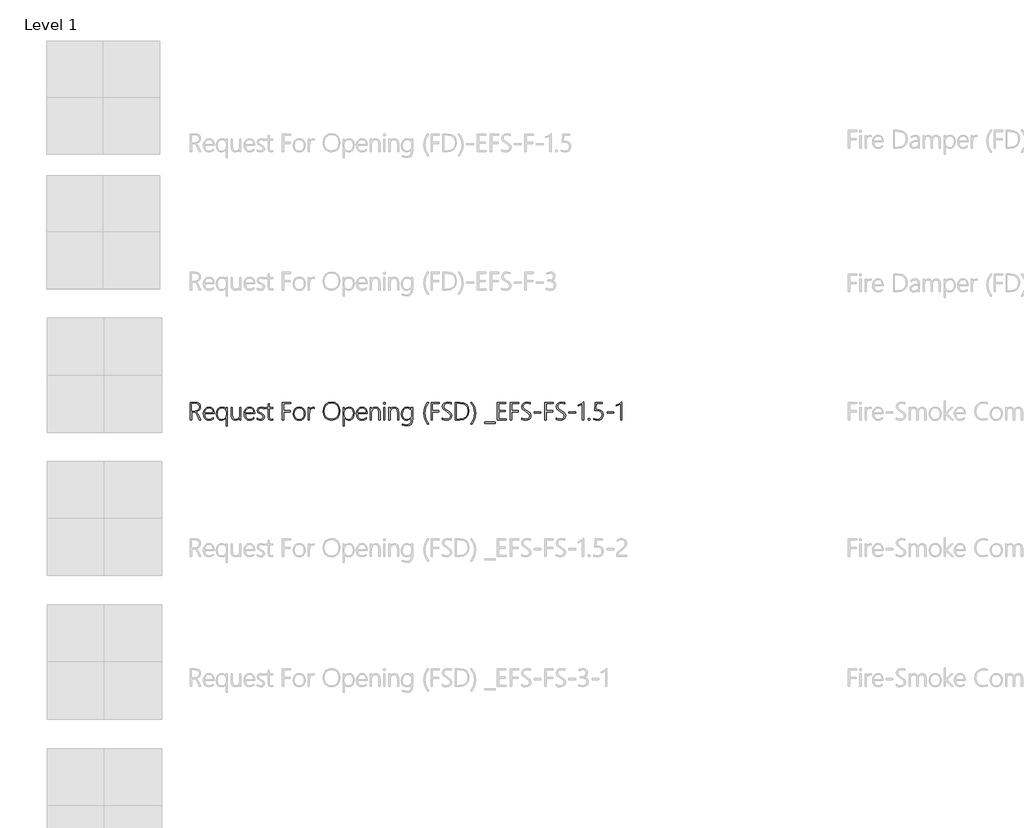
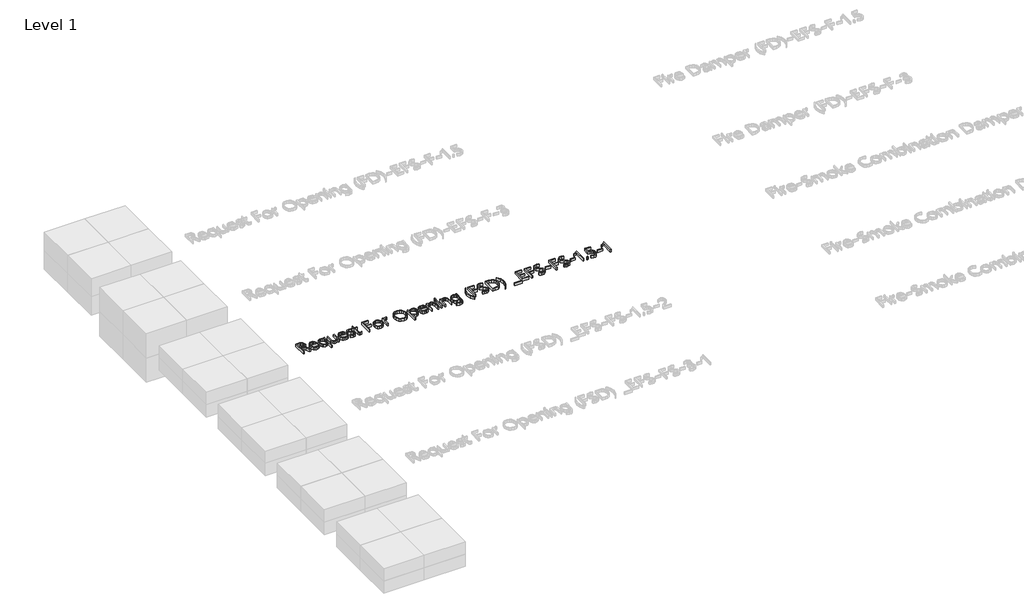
# One storey, part 7 of 13: 1 proxy.
"""IFC4 building model written with IfcOpenShell, lengths in millimetres."""

from ifc_helpers import new_model, si_unit, origin, origin_with_axes, place, context, project, spatial, polyline, outline, extrude, element, save

model = new_model("IFC4")

# Units and contexts
model_context = context("Model", 3, world=origin())
ifc_project = project(units=[si_unit("LENGTHUNIT", "METRE", prefix="MILLI")], contexts=[model_context])

# Site, building, storey
site = spatial("IfcSite", under=ifc_project)
building = spatial("IfcBuilding", under=site)
storey = spatial("IfcBuildingStorey", under=building, Name="Level 1", Elevation=0.0)

# Proxy
placement = place(None, origin())
element("IfcBuildingElementProxy", 1, Name="24\" Arial", ObjectType="24\" Arial", at=placement, inside=storey, context=model_context, shape_type="SweptSolid", body=[
    extrude(outline(polyline([(-15088.6743908, 6224.970856), (-15102.0044774, 6254.2494391), (-15110.2316402, 6266.4339713), (-15120.5713837, 6269.543333), (-15132.9790759, 6269.543333), (-15132.9790759, 6224.970856), (-15139.8821565, 6224.970856), (-15139.8821565, 6324.9762601), (-15112.121061, 6324.9762601), (-15100.2973039, 6323.1872613), (-15091.307678, 6317.8202649), (-15085.6282578, 6309.5298735), (-15083.7351177, 6298.9706894), (-15085.2860792, 6289.0363531), (-15089.9389638, 6280.8947349), (-15097.3813475, 6274.9400841), (-15107.3008065, 6271.5666498), (-15095.7262447, 6256.8380943), (-15080.8786706, 6224.970856), (-15088.6743908, 6224.970856)]), holes=[polyline([(-15132.9790759, 6318.638518), (-15132.9790759, 6275.8215658), (-15115.7511292, 6275.8215658), (-15105.4783337, 6277.3204567), (-15097.5710334, 6281.8171293), (-15092.527619, 6288.9247731), (-15090.8464808, 6298.2565776), (-15092.3639684, 6306.7738483), (-15096.916431, 6313.2231703), (-15104.2955861, 6317.2846811), (-15114.293151, 6318.638518), (-15132.9790759, 6318.638518)])]), origin_with_axes(), (0.0, 0.0, 1.0), 20.0),
    extrude(outline(polyline([(-15059.7528637, 6260.4086532), (-15058.0531289, 6247.2868492), (-15052.9539245, 6237.3785482), (-15044.8941316, 6231.1523862), (-15034.3126315, 6229.0769988), (-15022.4405231, 6231.2937208), (-15010.8659614, 6237.9438867), (-15010.8659614, 6231.1003155), (-15022.6041738, 6225.1865773), (-15035.6218364, 6223.2153313), (-15048.1039153, 6225.6924065), (-15057.9378296, 6233.1236322), (-15064.3202036, 6245.0701272), (-15066.4476617, 6261.0930103), (-15064.223501, 6275.4868259), (-15057.551019, 6287.4258822), (-15047.3228555, 6295.4596398), (-15034.4316501, 6298.1375589), (-15022.6748411, 6295.798099), (-15014.0050777, 6288.7797192), (-15008.6603974, 6277.7221445), (-15006.8788373, 6263.2651003), (-15006.8788373, 6260.4086532), (-15059.7528637, 6260.4086532)]), holes=[polyline([(-15013.5736352, 6266.2703207), (-15015.284528, 6277.2200347), (-15019.5245667, 6285.4323202), (-15026.07803, 6290.5649986), (-15034.7291967, 6292.2758914), (-15043.8973506, 6290.5910339), (-15051.347173, 6285.5364615), (-15056.676976, 6277.3502113), (-15059.4850718, 6266.2703207), (-15013.5736352, 6266.2703207)])]), origin_with_axes(), (0.0, 0.0, 1.0), 20.0),
    extrude(outline(polyline([(-14938.2348423, 6192.1217141), (-14938.2348423, 6238.09266), (-14948.946519, 6226.9346634), (-14964.3891863, 6223.2153313), (-14976.4695772, 6225.6738098), (-14985.9315583, 6233.0492456), (-14992.0461405, 6244.597772), (-14994.0843345, 6259.5755228), (-14991.7671906, 6275.4979839), (-14984.8157587, 6287.7383061), (-14974.2863292, 6295.5377457), (-14961.2351926, 6298.1375589), (-14947.5629274, 6294.8050373), (-14938.5026342, 6284.8074724), (-14938.2348423, 6296.3820342), (-14931.8078363, 6296.3820342), (-14931.8078363, 6192.1217141), (-14938.2348423, 6192.1217141)]), holes=[polyline([(-14938.2348423, 6267.7878083), (-14939.7858038, 6277.5250199), (-14944.4386884, 6285.3728109), (-14951.8438788, 6290.5501213), (-14961.6517578, 6292.2758914), (-14971.8055347, 6290.1409947), (-14980.0698908, 6283.7363047), (-14985.5596251, 6273.4932638), (-14987.3895366, 6259.8433147), (-14985.7604691, 6247.015338), (-14980.8732666, 6237.2744069), (-14973.3899702, 6231.1263508), (-14963.9726211, 6229.0769988), (-14952.9448011, 6230.9961742), (-14944.8552536, 6236.7537004), (-14939.8899451, 6245.2858485), (-14938.2348423, 6255.5288893), (-14938.2348423, 6267.7878083)])]), origin_with_axes(), (0.0, 0.0, 1.0), 20.0),
    extrude(outline(polyline([(-14861.7951271, 6224.970856), (-14861.7951271, 6237.9438867), (-14871.5620934, 6226.8974701), (-14885.0930239, 6223.2153313), (-14896.1710549, 6225.2088933), (-14904.0839341, 6231.1895795), (-14908.8316616, 6241.1573898), (-14910.4142375, 6255.1123241), (-14910.4142375, 6296.3820342), (-14903.9277221, 6296.3820342), (-14903.9277221, 6256.689321), (-14902.7338165, 6244.1812068), (-14899.1520996, 6235.6379008), (-14893.0040435, 6230.7172243), (-14884.1111202, 6229.0769988), (-14875.0917397, 6230.9069102), (-14867.9692185, 6236.3966445), (-14863.3386499, 6244.9436699), (-14861.7951271, 6255.9454546), (-14861.7951271, 6296.3820342), (-14855.3978757, 6296.3820342), (-14855.3978757, 6224.970856), (-14861.7951271, 6224.970856)])), origin_with_axes(), (0.0, 0.0, 1.0), 20.0),
    extrude(outline(polyline([(-14831.2370938, 6260.4086532), (-14829.537359, 6247.2868492), (-14824.4381545, 6237.3785482), (-14816.3783617, 6231.1523862), (-14805.7968616, 6229.0769988), (-14793.9247532, 6231.2937208), (-14782.3501914, 6237.9438867), (-14782.3501914, 6231.1003155), (-14794.0884038, 6225.1865773), (-14807.1060665, 6223.2153313), (-14819.5881453, 6225.6924065), (-14829.4220597, 6233.1236322), (-14835.8044337, 6245.0701272), (-14837.9318917, 6261.0930103), (-14835.7077311, 6275.4868259), (-14829.0352491, 6287.4258822), (-14818.8070856, 6295.4596398), (-14805.9158802, 6298.1375589), (-14794.1590711, 6295.798099), (-14785.4893078, 6288.7797192), (-14780.1446274, 6277.7221445), (-14778.3630673, 6263.2651003), (-14778.3630673, 6260.4086532), (-14831.2370938, 6260.4086532)]), holes=[polyline([(-14785.0578653, 6266.2703207), (-14786.7687581, 6277.2200347), (-14791.0087968, 6285.4323202), (-14797.5622601, 6290.5649986), (-14806.2134268, 6292.2758914), (-14815.3815806, 6290.5910339), (-14822.831403, 6285.5364615), (-14828.161206, 6277.3502113), (-14830.9693018, 6266.2703207), (-14785.0578653, 6266.2703207)])]), origin_with_axes(), (0.0, 0.0, 1.0), 20.0),
    extrude(outline(polyline([(-14764.1105863, 6228.0950951), (-14764.1105863, 6235.8610607), (-14755.318085, 6230.8920329), (-14746.4065651, 6229.0769988), (-14733.798029, 6232.5136617), (-14729.5951836, 6242.8236506), (-14733.2847611, 6250.9020401), (-14745.2758881, 6257.819998), (-14759.6771424, 6267.0588191), (-14763.8130398, 6278.6780129), (-14762.1504983, 6286.5592778), (-14757.1628738, 6292.7668433), (-14740.7531802, 6298.1375589), (-14724.9832117, 6294.3587174), (-14724.9832117, 6287.098581), (-14741.4375373, 6292.2758914), (-14752.8038165, 6288.6160685), (-14757.1182418, 6279.0945781), (-14754.410568, 6270.8227833), (-14742.419441, 6263.5328922), (-14727.080915, 6254.2196844), (-14722.9003856, 6242.8236506), (-14724.4959792, 6235.0539656), (-14729.2827597, 6228.7645749), (-14736.8739167, 6224.6026422), (-14746.8826396, 6223.2153313), (-14764.1105863, 6228.0950951)])), origin_with_axes(), (0.0, 0.0, 1.0), 20.0),
    extrude(outline(polyline([(-14676.9294397, 6225.9527597), (-14686.3616662, 6223.5723871), (-14698.2337745, 6228.318255), (-14702.191144, 6242.5558587), (-14702.191144, 6290.5203666), (-14715.0154014, 6290.5203666), (-14715.0154014, 6296.3820342), (-14702.191144, 6296.3820342), (-14702.191144, 6314.9191858), (-14698.977641, 6316.0498628), (-14695.764138, 6317.0912758), (-14695.764138, 6296.3820342), (-14676.9294397, 6296.3820342), (-14676.9294397, 6290.5203666), (-14695.764138, 6290.5203666), (-14695.764138, 6243.3889891), (-14693.4283973, 6232.6773124), (-14685.5285358, 6229.3745454), (-14676.9294397, 6231.9334459), (-14676.9294397, 6225.9527597)])), origin_with_axes(), (0.0, 0.0, 1.0), 20.0),
    extrude(outline(polyline([(-14615.0099974, 6318.638518), (-14615.0099974, 6277.8448825), (-14578.0547127, 6277.8448825), (-14578.0547127, 6271.5666498), (-14615.0099974, 6271.5666498), (-14615.0099974, 6224.970856), (-14621.9130779, 6224.970856), (-14621.9130779, 6324.9762601), (-14575.1685109, 6324.9762601), (-14575.1685109, 6318.638518), (-14615.0099974, 6318.638518)])), origin_with_axes(), (0.0, 0.0, 1.0), 20.0),
    extrude(outline(polyline([(-14527.9776241, 6223.2153313), (-14541.9697518, 6225.7891091), (-14552.7037445, 6233.5104428), (-14559.5324384, 6245.3453578), (-14561.8086697, 6260.2598799), (-14559.4282971, 6276.115393), (-14552.2871793, 6288.095362), (-14541.2630787, 6295.6270097), (-14527.2337576, 6298.1375589), (-14513.5503345, 6295.641887), (-14503.087853, 6288.1548713), (-14496.4488451, 6276.2567277), (-14494.2358424, 6260.5276718), (-14496.4934771, 6245.4494991), (-14503.266381, 6233.5401974), (-14513.959461, 6225.7965478), (-14527.9776241, 6223.2153313)]), holes=[polyline([(-14527.5015495, 6292.2758914), (-14538.8380741, 6290.1484334), (-14547.615698, 6283.7660594), (-14553.2393283, 6273.5974051), (-14555.1138717, 6260.1111066), (-14553.2839603, 6247.4728158), (-14547.794226, 6237.5868308), (-14539.128182, 6231.2044568), (-14527.7693415, 6229.0769988), (-14516.3621496, 6231.1709828), (-14507.9081076, 6237.4529349), (-14502.6750072, 6247.4467805), (-14500.9306404, 6260.6764451), (-14502.6638492, 6274.166463), (-14507.8634756, 6284.1082379), (-14516.2394117, 6290.233978), (-14527.5015495, 6292.2758914)])]), origin_with_axes(), (0.0, 0.0, 1.0), 20.0),
    extrude(outline(polyline([(-14442.9983221, 6289.6872362), (-14450.5262505, 6291.9783448), (-14458.2736194, 6289.7988162), (-14464.6745901, 6283.2602302), (-14468.9704188, 6272.7122041), (-14470.4023617, 6258.5043551), (-14470.4023617, 6224.970856), (-14476.6805945, 6224.970856), (-14476.6805945, 6296.3820342), (-14470.4023617, 6296.3820342), (-14470.4023617, 6280.5525563), (-14462.3686042, 6293.2429178), (-14450.1096853, 6297.7805031), (-14442.9983221, 6296.5308074), (-14442.9983221, 6289.6872362)])), origin_with_axes(), (0.0, 0.0, 1.0), 20.0),
    extrude(outline(polyline([(-14346.5337224, 6223.2153313), (-14365.5729839, 6226.7375388), (-14380.320136, 6237.3041616), (-14389.7709591, 6253.5018533), (-14392.9212335, 6273.9172677), (-14389.6854145, 6295.4596398), (-14379.9779574, 6312.2412666), (-14364.6766248, 6323.0422073), (-14344.6591789, 6326.6425209), (-14326.3563452, 6323.1835419), (-14311.9141783, 6312.8066051), (-14302.5303032, 6296.8134767), (-14299.4023448, 6276.5059229), (-14302.6084092, 6254.3349837), (-14312.2266022, 6237.4529349), (-14327.2155109, 6226.7747322), (-14346.5337224, 6223.2153313)]), holes=[polyline([(-14345.8196106, 6320.3642881), (-14361.712317, 6317.2102944), (-14374.5179778, 6307.7483133), (-14382.9645812, 6293.1759698), (-14385.7801157, 6274.6908888), (-14383.1133545, 6256.1462985), (-14375.1130709, 6241.8119922), (-14362.6719047, 6232.640119), (-14346.6824956, 6229.582828), (-14330.0570807, 6232.606645), (-14317.3146486, 6241.6780963), (-14309.2139431, 6256.1574565), (-14306.513708, 6275.4050006), (-14309.1544338, 6294.2657341), (-14317.0766114, 6308.4773024), (-14329.5438129, 6317.3925417), (-14345.8196106, 6320.3642881)])]), origin_with_axes(), (0.0, 0.0, 1.0), 20.0),
    extrude(outline(polyline([(-14273.843094, 6237.6760948), (-14274.1108859, 6192.1217141), (-14280.5378919, 6192.1217141), (-14280.5378919, 6296.3820342), (-14274.1108859, 6296.3820342), (-14274.1108859, 6281.6534787), (-14262.848748, 6293.8380109), (-14247.1234115, 6298.1375589), (-14235.0169852, 6295.7906603), (-14225.8934633, 6288.7499645), (-14220.1694111, 6277.6849512), (-14218.2613937, 6263.2651003), (-14220.448361, 6247.0450926), (-14227.009263, 6234.2691865), (-14237.1630399, 6225.9787951), (-14250.1286319, 6223.2153313), (-14264.0761276, 6226.8305221), (-14273.843094, 6237.6760948)]), holes=[polyline([(-14274.1108859, 6264.247004), (-14274.1108859, 6255.2313428), (-14272.4185897, 6245.2486552), (-14267.3417013, 6236.7834551), (-14259.512507, 6231.0036129), (-14249.5632934, 6229.0769988), (-14239.6438345, 6231.4238974), (-14231.7848855, 6238.4645932), (-14226.6633651, 6249.3213239), (-14224.9561916, 6263.116327), (-14226.5257498, 6275.12977), (-14231.2344244, 6284.3909072), (-14238.5540701, 6290.3046454), (-14247.9565419, 6292.2758914), (-14259.0364325, 6290.1819074), (-14267.282192, 6283.8999553), (-14272.4037124, 6274.7987494), (-14274.1108859, 6264.247004)])]), origin_with_axes(), (0.0, 0.0, 1.0), 20.0),
    extrude(outline(polyline([(-14199.0101303, 6260.4086532), (-14197.3103954, 6247.2868492), (-14192.211191, 6237.3785482), (-14184.1513981, 6231.1523862), (-14173.5698981, 6229.0769988), (-14161.6977897, 6231.2937208), (-14150.1232279, 6237.9438867), (-14150.1232279, 6231.1003155), (-14161.8614403, 6225.1865773), (-14174.879103, 6223.2153313), (-14187.3611818, 6225.6924065), (-14197.1950961, 6233.1236322), (-14203.5774702, 6245.0701272), (-14205.7049282, 6261.0930103), (-14203.4807675, 6275.4868259), (-14196.8082856, 6287.4258822), (-14186.5801221, 6295.4596398), (-14173.6889167, 6298.1375589), (-14161.9321076, 6295.798099), (-14153.2623443, 6288.7797192), (-14147.9176639, 6277.7221445), (-14146.1361038, 6263.2651003), (-14146.1361038, 6260.4086532), (-14199.0101303, 6260.4086532)]), holes=[polyline([(-14152.8309017, 6266.2703207), (-14154.5417946, 6277.2200347), (-14158.7818333, 6285.4323202), (-14165.3352966, 6290.5649986), (-14173.9864633, 6292.2758914), (-14183.1546171, 6290.5910339), (-14190.6044395, 6285.5364615), (-14195.9342425, 6277.3502113), (-14198.7423383, 6266.2703207), (-14152.8309017, 6266.2703207)])]), origin_with_axes(), (0.0, 0.0, 1.0), 20.0),
    extrude(outline(polyline([(-14079.6344442, 6224.970856), (-14079.6344442, 6266.5381126), (-14084.2761708, 6285.8414467), (-14090.078329, 6290.6672802), (-14098.2013505, 6292.2758914), (-14107.6001029, 6290.3827513), (-14115.146628, 6284.7033311), (-14120.1119364, 6276.2344117), (-14121.7670393, 6265.9727741), (-14121.7670393, 6224.970856), (-14128.1940453, 6224.970856), (-14128.1940453, 6296.3820342), (-14121.7670393, 6296.3820342), (-14121.7670393, 6283.4090035), (-14111.4793664, 6294.4554201), (-14097.0706735, 6298.1375589), (-14086.8573873, 6296.2109449), (-14079.3666523, 6290.4311026), (-14074.7695577, 6281.0732628), (-14073.2371928, 6268.4126561), (-14073.2371928, 6224.970856), (-14079.6344442, 6224.970856)])), origin_with_axes(), (0.0, 0.0, 1.0), 20.0),
    extrude(outline(polyline([(-14048.8681283, 6314.383602), (-14052.5577058, 6315.9159668), (-14054.1644573, 6319.8287043), (-14052.5279512, 6323.5480365), (-14048.8681283, 6324.9762601), (-14045.0595321, 6323.5777912), (-14043.4230259, 6319.8287043), (-14045.0297775, 6315.9903535), (-14048.8681283, 6314.383602)])), origin_with_axes(), (0.0, 0.0, 1.0), 20.0),
    extrude(outline(polyline([(-14052.022122, 6224.970856), (-14052.022122, 6296.3820342), (-14045.595116, 6296.3820342), (-14045.595116, 6224.970856), (-14052.022122, 6224.970856)])), origin_with_axes(), (0.0, 0.0, 1.0), 20.0),
    extrude(outline(polyline([(-13974.8980496, 6224.970856), (-13974.8980496, 6266.5381126), (-13979.5397762, 6285.8414467), (-13985.3419344, 6290.6672802), (-13993.4649559, 6292.2758914), (-14002.8637084, 6290.3827513), (-14010.4102334, 6284.7033311), (-14015.3755419, 6276.2344117), (-14017.0306447, 6265.9727741), (-14017.0306447, 6224.970856), (-14023.4576507, 6224.970856), (-14023.4576507, 6296.3820342), (-14017.0306447, 6296.3820342), (-14017.0306447, 6283.4090035), (-14006.7429719, 6294.4554201), (-13992.3342789, 6298.1375589), (-13982.1209927, 6296.2109449), (-13974.6302577, 6290.4311026), (-13970.0331631, 6281.0732628), (-13968.5007983, 6268.4126561), (-13968.5007983, 6224.970856), (-13974.8980496, 6224.970856)])), origin_with_axes(), (0.0, 0.0, 1.0), 20.0),
    extrude(outline(polyline([(-13890.1567849, 6230.2671851), (-13892.3549103, 6212.8235171), (-13898.9492862, 6200.7803195), (-13910.1779501, 6193.7730976), (-13926.2789392, 6191.437357), (-13947.5535193, 6196.8527047), (-13947.5535193, 6203.5475026), (-13926.1301659, 6197.2990245), (-13913.2036269, 6199.2516739), (-13903.9703847, 6205.1096221), (-13898.4304394, 6214.8728691), (-13896.583791, 6228.541415), (-13896.583791, 6237.7951134), (-13907.5111889, 6226.8602768), (-13922.5893617, 6223.2153313), (-13934.5581727, 6225.6068619), (-13944.1019791, 6232.7814537), (-13950.3504571, 6244.2258388), (-13952.4332832, 6259.4267495), (-13950.1830872, 6274.9400841), (-13943.4324993, 6287.3217409), (-13933.0072111, 6295.4336044), (-13919.7329145, 6298.1375589), (-13906.1275974, 6294.8719853), (-13896.8515829, 6285.0752643), (-13896.583791, 6296.3820342), (-13890.1567849, 6296.3820342), (-13890.1567849, 6230.2671851)]), holes=[polyline([(-13896.583791, 6268.9779946), (-13898.1793845, 6277.8225665), (-13902.966165, 6285.3728109), (-13910.3118461, 6290.5501213), (-13919.5841412, 6292.2758914), (-13930.217712, 6290.0591694), (-13938.5527354, 6283.4090035), (-13943.9420478, 6273.1213306), (-13945.7384852, 6259.992088), (-13944.0908211, 6246.959548), (-13939.1478286, 6237.2000203), (-13931.5046009, 6231.1077542), (-13921.7562312, 6229.0769988), (-13911.4127684, 6230.9441035), (-13903.4124849, 6236.5454178), (-13898.2909644, 6244.8469673), (-13896.583791, 6254.8147776), (-13896.583791, 6268.9779946)])]), origin_with_axes(), (0.0, 0.0, 1.0), 20.0),
    extrude(outline(polyline([(-13807.1412904, 6202.2382977), (-13822.9856455, 6229.7687946), (-13828.2670972, 6262.9675537), (-13822.9186975, 6297.3044285), (-13806.8734985, 6324.9762601), (-13800.0299272, 6324.9762601), (-13816.4098662, 6296.9548113), (-13821.8698459, 6263.116327), (-13816.4842529, 6230.5647317), (-13800.3274738, 6202.2382977), (-13807.1412904, 6202.2382977)])), origin_with_axes(), (0.0, 0.0, 1.0), 20.0),
    extrude(outline(polyline([(-13779.023139, 6318.638518), (-13779.023139, 6277.8448825), (-13742.0678543, 6277.8448825), (-13742.0678543, 6271.5666498), (-13779.023139, 6271.5666498), (-13779.023139, 6224.970856), (-13785.9262196, 6224.970856), (-13785.9262196, 6324.9762601), (-13739.1816526, 6324.9762601), (-13739.1816526, 6318.638518), (-13779.023139, 6318.638518)])), origin_with_axes(), (0.0, 0.0, 1.0), 20.0),
    extrude(outline(polyline([(-13722.4000257, 6228.541415), (-13722.4000257, 6236.3966445), (-13711.5916463, 6231.2862821), (-13700.649371, 6229.582828), (-13682.8560858, 6234.4179598), (-13678.3036232, 6240.2238374), (-13676.7861357, 6247.9712063), (-13680.8774011, 6260.2152479), (-13698.566545, 6272.6675721), (-13717.8029311, 6287.5002689), (-13721.8346872, 6301.261798), (-13719.7778965, 6311.0547997), (-13713.6075244, 6319.2484885), (-13704.007928, 6324.7940128), (-13691.6634645, 6326.6425209), (-13673.8106699, 6323.6373005), (-13673.8106699, 6316.4069187), (-13692.5561042, 6320.3642881), (-13708.6980059, 6315.2018551), (-13713.1723625, 6309.3439068), (-13714.6638147, 6302.0949284), (-13710.5874267, 6289.8955188), (-13692.9726694, 6277.5473359), (-13674.3164991, 6263.4287509), (-13669.6747725, 6249.2506566), (-13671.6720539, 6238.7993331), (-13677.6638981, 6230.4754677), (-13687.3006878, 6225.0303654), (-13700.2328058, 6223.2153313), (-13712.1197915, 6224.8220828), (-13722.4000257, 6228.541415)])), origin_with_axes(), (0.0, 0.0, 1.0), 20.0),
    extrude(outline(polyline([(-13648.8167576, 6224.970856), (-13648.8167576, 6324.9762601), (-13623.7633359, 6324.9762601), (-13601.863908, 6321.874337), (-13585.9154115, 6312.5685679), (-13576.1856385, 6297.3118672), (-13572.9423809, 6276.3571496), (-13576.4199565, 6255.6516273), (-13586.8526833, 6239.2382143), (-13603.4074308, 6228.5376956), (-13625.2510688, 6224.970856), (-13648.8167576, 6224.970856)]), holes=[polyline([(-13641.913677, 6318.638518), (-13641.913677, 6231.2490888), (-13626.2032179, 6231.2490888), (-13606.5502665, 6234.1352906), (-13592.044871, 6242.7938959), (-13583.0961577, 6256.8901649), (-13580.1132533, 6276.0893577), (-13582.9064718, 6294.7046153), (-13591.2861272, 6308.0012279), (-13605.2522196, 6315.9791955), (-13624.804749, 6318.638518), (-13641.913677, 6318.638518)])]), origin_with_axes(), (0.0, 0.0, 1.0), 20.0),
    extrude(outline(polyline([(-13555.8036981, 6202.2382977), (-13562.6472693, 6202.2382977), (-13546.4681743, 6230.5647317), (-13541.0751426, 6263.116327), (-13546.5351223, 6296.9548113), (-13562.9150613, 6324.9762601), (-13556.07149, 6324.9762601), (-13540.0262909, 6297.2300419), (-13534.6778912, 6262.9675537), (-13539.959343, 6229.6944079), (-13555.8036981, 6202.2382977)])), origin_with_axes(), (0.0, 0.0, 1.0), 20.0),
    extrude(outline(polyline([(-13484.5412933, 6206.2849311), (-13484.5412933, 6212.5631639), (-13425.2700155, 6212.5631639), (-13425.2700155, 6206.2849311), (-13484.5412933, 6206.2849311)])), origin_with_axes(), (0.0, 0.0, 1.0), 20.0),
    extrude(outline(polyline([(-13412.6837953, 6224.970856), (-13412.6837953, 6324.9762601), (-13365.9392283, 6324.9762601), (-13365.9392283, 6318.638518), (-13405.7807148, 6318.638518), (-13405.7807148, 6278.5292396), (-13368.8254301, 6278.5292396), (-13368.8254301, 6272.2510069), (-13405.7807148, 6272.2510069), (-13405.7807148, 6231.2490888), (-13363.6481197, 6231.2490888), (-13363.6481197, 6224.970856), (-13412.6837953, 6224.970856)])), origin_with_axes(), (0.0, 0.0, 1.0), 20.0),
    extrude(outline(polyline([(-13333.4173876, 6318.638518), (-13333.4173876, 6277.8448825), (-13296.4621029, 6277.8448825), (-13296.4621029, 6271.5666498), (-13333.4173876, 6271.5666498), (-13333.4173876, 6224.970856), (-13340.3204682, 6224.970856), (-13340.3204682, 6324.9762601), (-13293.5759012, 6324.9762601), (-13293.5759012, 6318.638518), (-13333.4173876, 6318.638518)])), origin_with_axes(), (0.0, 0.0, 1.0), 20.0),
    extrude(outline(polyline([(-13276.7942743, 6228.541415), (-13276.7942743, 6236.3966445), (-13265.985895, 6231.2862821), (-13255.0436196, 6229.582828), (-13237.2503344, 6234.4179598), (-13232.6978718, 6240.2238374), (-13231.1803843, 6247.9712063), (-13235.2716497, 6260.2152479), (-13252.9607936, 6272.6675721), (-13272.1971797, 6287.5002689), (-13276.2289358, 6301.261798), (-13274.1721451, 6311.0547997), (-13268.001773, 6319.2484885), (-13258.4021766, 6324.7940128), (-13246.0577131, 6326.6425209), (-13228.2049185, 6323.6373005), (-13228.2049185, 6316.4069187), (-13246.9503528, 6320.3642881), (-13263.0922545, 6315.2018551), (-13267.5666111, 6309.3439068), (-13269.0580633, 6302.0949284), (-13264.9816753, 6289.8955188), (-13247.366918, 6277.5473359), (-13228.7107477, 6263.4287509), (-13224.0690211, 6249.2506566), (-13226.0663025, 6238.7993331), (-13232.0581467, 6230.4754677), (-13241.6949364, 6225.0303654), (-13254.6270544, 6223.2153313), (-13266.5140401, 6224.8220828), (-13276.7942743, 6228.541415)])), origin_with_axes(), (0.0, 0.0, 1.0), 20.0),
    extrude(outline(polyline([(-13205.91868, 6263.6816655), (-13205.91868, 6269.9598983), (-13167.7732091, 6269.9598983), (-13167.7732091, 6263.6816655), (-13205.91868, 6263.6816655)])), origin_with_axes(), (0.0, 0.0, 1.0), 20.0),
    extrude(outline(polyline([(-13139.1789832, 6318.638518), (-13139.1789832, 6277.8448825), (-13102.2236985, 6277.8448825), (-13102.2236985, 6271.5666498), (-13139.1789832, 6271.5666498), (-13139.1789832, 6224.970856), (-13146.0820637, 6224.970856), (-13146.0820637, 6324.9762601), (-13099.3374967, 6324.9762601), (-13099.3374967, 6318.638518), (-13139.1789832, 6318.638518)])), origin_with_axes(), (0.0, 0.0, 1.0), 20.0),
    extrude(outline(polyline([(-13082.5558699, 6228.541415), (-13082.5558699, 6236.3966445), (-13071.7474905, 6231.2862821), (-13060.8052152, 6229.582828), (-13043.01193, 6234.4179598), (-13038.4594674, 6240.2238374), (-13036.9419798, 6247.9712063), (-13041.0332453, 6260.2152479), (-13058.7223892, 6272.6675721), (-13077.9587753, 6287.5002689), (-13081.9905314, 6301.261798), (-13079.9337407, 6311.0547997), (-13073.7633685, 6319.2484885), (-13064.1637722, 6324.7940128), (-13051.8193086, 6326.6425209), (-13033.9665141, 6323.6373005), (-13033.9665141, 6316.4069187), (-13052.7119483, 6320.3642881), (-13068.8538501, 6315.2018551), (-13073.3282067, 6309.3439068), (-13074.8196589, 6302.0949284), (-13070.7432708, 6289.8955188), (-13053.1285135, 6277.5473359), (-13034.4723433, 6263.4287509), (-13029.8306167, 6249.2506566), (-13031.8278981, 6238.7993331), (-13037.8197422, 6230.4754677), (-13047.4565319, 6225.0303654), (-13060.38865, 6223.2153313), (-13072.2756357, 6224.8220828), (-13082.5558699, 6228.541415)])), origin_with_axes(), (0.0, 0.0, 1.0), 20.0),
    extrude(outline(polyline([(-13011.6802756, 6263.6816655), (-13011.6802756, 6269.9598983), (-12973.5348046, 6269.9598983), (-12973.5348046, 6263.6816655), (-13011.6802756, 6263.6816655)])), origin_with_axes(), (0.0, 0.0, 1.0), 20.0),
    extrude(outline(polyline([(-12927.9804239, 6327.2078594), (-12927.9804239, 6224.970856), (-12934.4074299, 6224.970856), (-12934.4074299, 6317.0912758), (-12945.3868986, 6309.1319049), (-12958.8657584, 6303.2256054), (-12958.8657584, 6309.0872729), (-12950.7278596, 6312.3900399), (-12943.5123551, 6316.466428), (-12936.8175572, 6321.3759465), (-12930.2120232, 6327.2078594), (-12927.9804239, 6327.2078594)])), origin_with_axes(), (0.0, 0.0, 1.0), 20.0),
    extrude(outline(polyline([(-12897.4223906, 6223.7211604), (-12901.3946374, 6225.3576666), (-12902.9865116, 6229.3745454), (-12901.3946374, 6233.3765468), (-12897.4223906, 6234.9386663), (-12893.3757572, 6233.3765468), (-12891.7094964, 6229.3745454), (-12893.3757572, 6225.3576666), (-12897.4223906, 6223.7211604)])), origin_with_axes(), (0.0, 0.0, 1.0), 20.0),
    extrude(outline(polyline([(-12869.7208044, 6226.9941728), (-12869.7208044, 6234.3733278), (-12850.6183143, 6229.0769988), (-12839.676039, 6230.7692949), (-12831.4265602, 6235.8461834), (-12826.2492498, 6243.7274483), (-12824.5234796, 6253.8328739), (-12826.2622674, 6264.5203749), (-12831.4786308, 6272.1543042), (-12840.1725698, 6276.7346618), (-12852.3440844, 6278.2614477), (-12866.715584, 6277.4283173), (-12863.7103636, 6324.9762601), (-12822.0835977, 6324.9762601), (-12822.0835977, 6319.1145925), (-12857.9974694, 6319.1145925), (-12860.3183327, 6283.5577768), (-12849.9934665, 6284.1231152), (-12836.0794447, 6282.1779045), (-12825.9963352, 6276.3422723), (-12819.8705951, 6267.0327838), (-12817.8286817, 6254.6660043), (-12819.9896137, 6241.9756428), (-12826.4724097, 6231.9334459), (-12836.9720845, 6225.3948599), (-12851.1836528, 6223.2153313), (-12869.7208044, 6226.9941728)])), origin_with_axes(), (0.0, 0.0, 1.0), 20.0),
    extrude(outline(polyline([(-12796.4945922, 6263.6816655), (-12796.4945922, 6269.9598983), (-12758.3491212, 6269.9598983), (-12758.3491212, 6263.6816655), (-12796.4945922, 6263.6816655)])), origin_with_axes(), (0.0, 0.0, 1.0), 20.0),
    extrude(outline(polyline([(-12712.7947405, 6327.2078594), (-12712.7947405, 6224.970856), (-12719.2217466, 6224.970856), (-12719.2217466, 6317.0912758), (-12730.2012152, 6309.1319049), (-12743.6800751, 6303.2256054), (-12743.6800751, 6309.0872729), (-12735.5421762, 6312.3900399), (-12728.3266718, 6316.466428), (-12721.6318738, 6321.3759465), (-12715.0263399, 6327.2078594), (-12712.7947405, 6327.2078594)])), origin_with_axes(), (0.0, 0.0, 1.0), 20.0),
])

save(model, "model.ifc")
